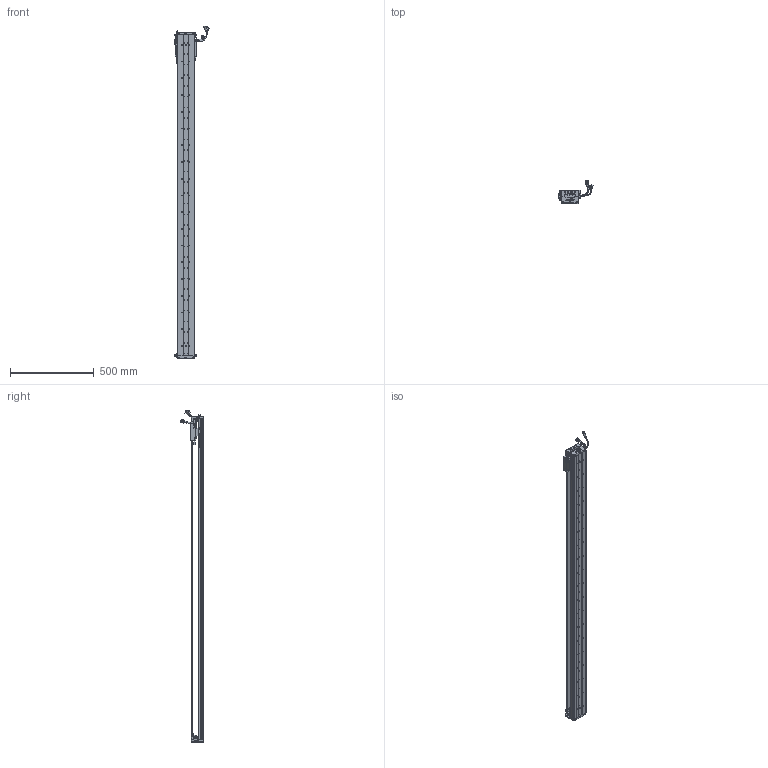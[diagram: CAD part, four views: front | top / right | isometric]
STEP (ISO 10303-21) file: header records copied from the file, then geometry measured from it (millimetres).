
FILE_DESCRIPTION (( 'STEP AP203' ), '1' );
FILE_NAME ('Z1-RY100D-1-L500-B-K.SLDASM_1750.step', '2021-05-17T01:42:32', ( '盈信电脑' ), ( '东莞市道滘镇水果街19号' ), 'SwSTEP 2.0', 'SolidWorks 2016', '' );
FILE_SCHEMA (( 'CONFIG_CONTROL_DESIGN' ));
Length unit declared in the file: millimetre
Products named in the file (36): Z1-RY100D-500-倰第菁釱_1750; SCREW-M1.6-3; Z-RY100D覜茼んえ; Z-RY100D詩湍奻揤裔; LABEL; 100-Z-臏賑輸盄裔(21遴); 140雄赽晤鎢ん堤盄; HARNESS; SCREW-M1.7; COVER; 080黍杅芛假蚾釱21遴; 140蚥薯蝶輸; SCREW-M1.6-2; SHIELDPLATE; Z1-RY100铝滑块（21款）; Z-RY100D詩湍狟揤裔; PSLH080_PSLF2; HOLDER0; 榋妏寠巭燃_暯_M2_2; HARNESS-Part-2; COVER-Part-1; HARNESS-Part-1; SCREW-M1.7-1; Z1-RY100-L500詩湍90mm遵_1750; SCALE; Z1-RY100D-1-L500-B-K.SLDASM_1750; 覜茼ん672; SCALE-Part-2; SEAL; LABEL-Part-1; SCREW-M1.6; SCREW-M1.6-1; SEAL-Part-1; Z-100詩湍傷裔啣; PBU_SHEET; SCALE-Part-1
Assembly tree (44 placements, depth 4):
  Z1-RY100D-1-L500-B-K.SLDASM_1750
    Z1-RY100D-500-倰第菁釱_1750
    Z1-RY100铝滑块（21款）
    PSLH080_PSLF2
      SCALE
        SCALE-Part-1
        SCALE-Part-2
      HARNESS
        HARNESS-Part-1
        HARNESS-Part-2
      LABEL
        LABEL-Part-1
      COVER
        COVER-Part-1
      SEAL
        SEAL-Part-1
      榋妏寠巭燃_暯_M2_2
      SHIELDPLATE
      SCREW-M1.7
      SCREW-M1.7-1
      PBU_SHEET
      SCREW-M1.6
      SCREW-M1.6-1
      SCREW-M1.6-2
      SCREW-M1.6-3
      HOLDER0
    080黍杅芛假蚾釱21遴
    Z-100詩湍傷裔啣  x2
    140蚥薯蝶輸  x2
    覜茼ん672  x4
    Z-RY100D覜茼んえ  x3
    100-Z-臏賑輸盄裔(21遴)
    140雄赽晤鎢ん堤盄
    Z1-RY100-L500詩湍90mm遵_1750
    Z-RY100D詩湍狟揤裔  x2
    Z-RY100D詩湍奻揤裔  x2
Bounding box: 205.84 x 136.11 x 1985.43 mm (x, y, z)
Volume: 3591562.4 mm3; surface area: 1432958.9 mm2
Topology: 39 solids, 39 shells, 2822 faces, 7597 edges, 4848 vertices
Faces by surface type: cylinder 1282, plane 1208, cone 210, torus 69, bspline 53
Entity records: 77081 total; most frequent: CARTESIAN_POINT 16257, DIRECTION 12271, ORIENTED_EDGE 11626, EDGE_CURVE 5813, AXIS2_PLACEMENT_3D 4554, VERTEX_POINT 3756, VECTOR 3163, LINE 3163
